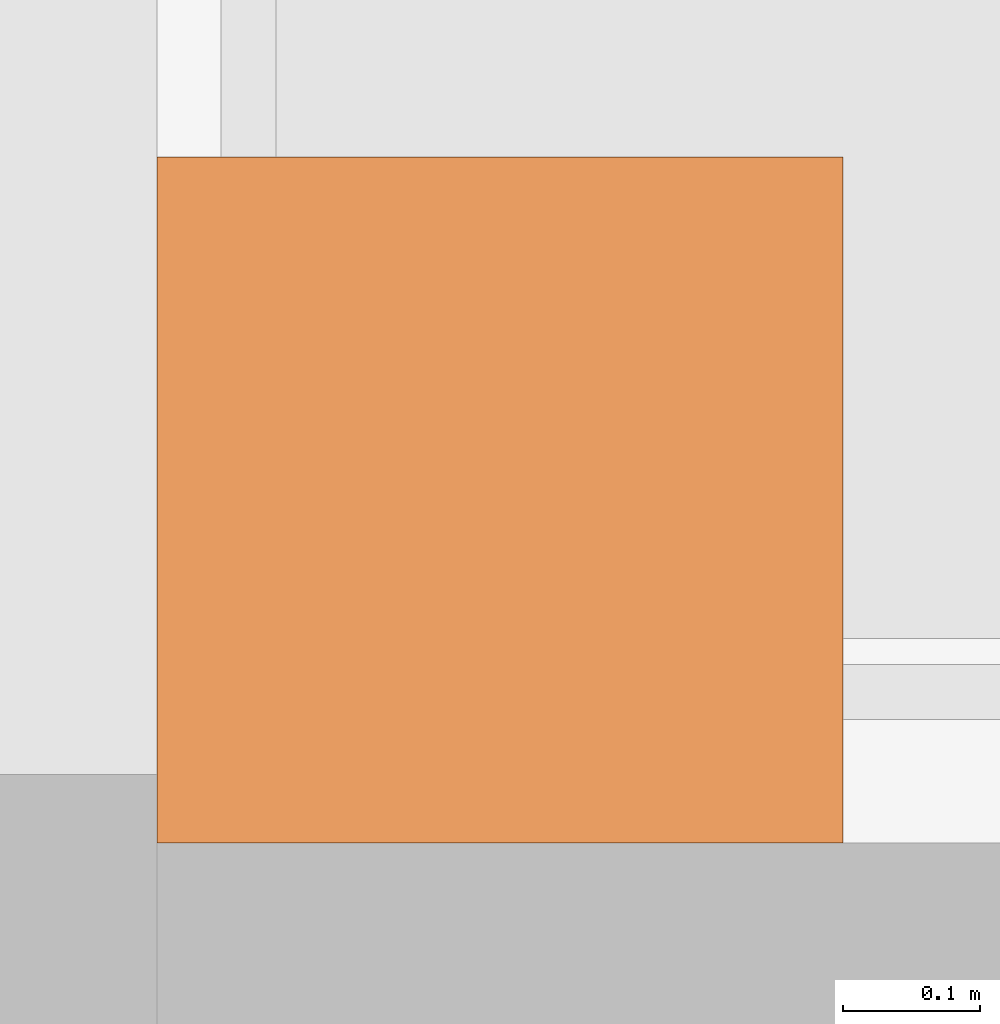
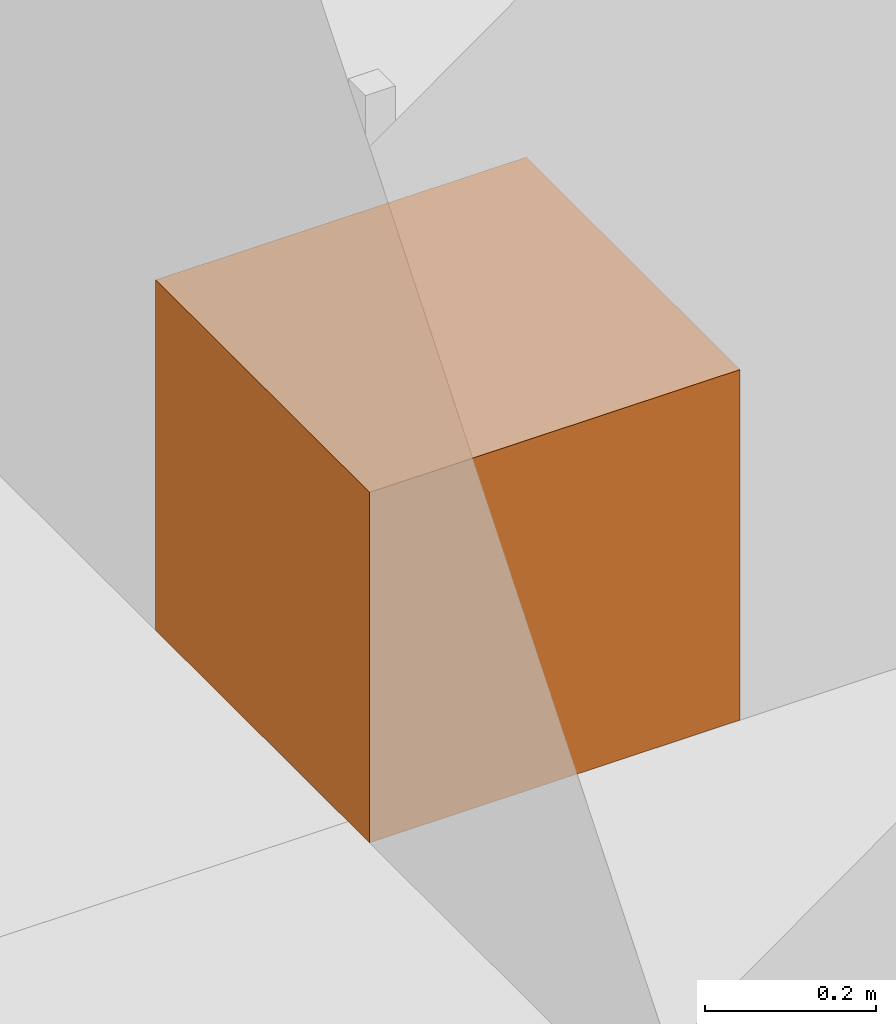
# One storey, part 46 of 46: 1 proxy.
"""IFC2X3 building model written with IfcOpenShell, lengths in millimetres."""

import ifcopenshell
import ifcopenshell.guid

model = None  # the IFC model being written
_history = None  # IfcOwnerHistory: only IFC2X3 demands one
_inside = {}  # id of a spatial element -> (the spatial element, [elements in it])
_under = {}  # id of a project, library or spatial element -> (it, [spatial elements below it])
_declared = {}  # id of a project -> (the project, [libraries it declares])
_typed = {}  # id of a type object -> (the type object, [elements of that type])
_made_of = {}  # id of a material, layer set ... -> (it, [elements and type objects made of it])


def new_model(schema):
    """Start an empty IFC model of exactly this schema.

    Asked for "IFC4X3", IfcOpenShell would pick the latest addendum, in which some entities
    have other attributes; the version numbers below select the first issue.
    IFC2X3 requires an IfcOwnerHistory on every rooted entity: one is made here for all.
    """
    global model, _history
    if schema == "IFC4X3":
        model = ifcopenshell.file(schema_version=(4, 3, 0, 0))
    else:
        model = ifcopenshell.file(schema=schema)
    _inside.clear()
    _under.clear()
    _declared.clear()
    _typed.clear()
    _made_of.clear()
    _history = None
    if model.schema == "IFC2X3":
        org = make("IfcOrganization", Name="unknown")
        user = make(
            "IfcPersonAndOrganization",
            ThePerson=make("IfcPerson", FamilyName="unknown"),
            TheOrganization=org,
        )
        app = make(
            "IfcApplication",
            ApplicationDeveloper=org,
            Version="unknown",
            ApplicationFullName="unknown",
            ApplicationIdentifier="unknown",
        )
        _history = make(
            "IfcOwnerHistory",
            OwningUser=user,
            OwningApplication=app,
            ChangeAction="ADDED",
            CreationDate=0,
        )
    return model


def make(cls, **values):
    """One entity of the class cls with the attributes given. An attribute that is None is left unset."""
    return model.create_entity(
        cls, **{name: value for name, value in values.items() if value is not None}
    )


def entity(cls, *values):
    """Any entity or typed value of the class cls, its attributes in the order of the schema. None: left unset."""
    e = model.create_entity(cls)
    for i, value in enumerate(values):
        if value is not None:
            e[i] = value
    return e


def rooted(cls, **values):
    """An entity with a GlobalId (a new one), such as an element, a storey or a relation."""
    return make(cls, GlobalId=ifcopenshell.guid.new(), OwnerHistory=_history, **values)


def si_unit(unit_type, name, prefix=None):
    """IfcSIUnit, for example si_unit("LENGTHUNIT", "METRE", prefix="MILLI")."""
    return make("IfcSIUnit", UnitType=unit_type, Prefix=prefix, Name=name)


def converted_unit(unit_type, name, factor, base, dimensions=None, offset=None):
    """IfcConversionBasedUnit, such as the inch: factor (a typed value) times the base unit."""
    return make(
        "IfcConversionBasedUnit"
        if offset is None
        else "IfcConversionBasedUnitWithOffset",
        ConversionOffset=offset,
        Dimensions=None
        if dimensions is None
        else entity("IfcDimensionalExponents", *dimensions),
        UnitType=unit_type,
        Name=name,
        ConversionFactor=make(
            "IfcMeasureWithUnit", ValueComponent=factor, UnitComponent=base
        ),
    )


def derived_unit(unit_type, elements):
    """IfcDerivedUnit: a product of units, each with its exponent."""
    return make(
        "IfcDerivedUnit",
        Elements=[
            make("IfcDerivedUnitElement", Unit=unit, Exponent=power)
            for unit, power in elements
        ],
        UnitType=unit_type,
    )


def assignment(units):
    """IfcUnitAssignment: the units of a project."""
    return None if units is None else make("IfcUnitAssignment", Units=units)


def point(xyz):
    """IfcCartesianPoint."""
    return None if xyz is None else make("IfcCartesianPoint", Coordinates=xyz)


def direction(xyz):
    """IfcDirection."""
    return None if xyz is None else make("IfcDirection", DirectionRatios=xyz)


def frame(location, z_axis=None, x_axis=None):
    """IfcAxis2Placement3D, a coordinate frame: its origin and axes. An axis left out is left unset."""
    return make(
        "IfcAxis2Placement3D",
        Location=point(location),
        Axis=direction(z_axis),
        RefDirection=direction(x_axis),
    )


def frame_2d(location, x_axis=None):
    """IfcAxis2Placement2D, a coordinate frame in the plane: its origin and x axis."""
    return make(
        "IfcAxis2Placement2D", Location=point(location), RefDirection=direction(x_axis)
    )


def origin():
    """The frame at (0, 0, 0) with its axes left unset."""
    return frame((0.0, 0.0, 0.0))


def origin_2d_with_axis():
    """The frame at (0, 0) in the plane with the x axis (1, 0) written out."""
    return frame_2d((0.0, 0.0), x_axis=(1.0, 0.0))


def place(relative_to, where):
    """IfcLocalPlacement: puts the frame where relative to a parent placement (None: the world)."""
    return make(
        "IfcLocalPlacement", PlacementRelTo=relative_to, RelativePlacement=where
    )


def context(
    kind, dimensions, precision=None, world=None, true_north=None, identifier=None
):
    """IfcGeometricRepresentationContext, for example the 3D "Model" context."""
    return make(
        "IfcGeometricRepresentationContext",
        ContextIdentifier=identifier,
        ContextType=kind,
        CoordinateSpaceDimension=dimensions,
        Precision=precision,
        WorldCoordinateSystem=world,
        TrueNorth=true_north,
    )


def subcontext(parent, identifier, kind, view, scale=None):
    """IfcGeometricRepresentationSubContext, for example "Body" below "Model"."""
    return make(
        "IfcGeometricRepresentationSubContext",
        ContextIdentifier=identifier,
        ContextType=kind,
        ParentContext=parent,
        TargetScale=scale,
        TargetView=view,
    )


def project(units=None, contexts=None):
    """IfcProject with its units and contexts."""
    return rooted(
        "IfcProject",
        Name="project",
        RepresentationContexts=contexts,
        UnitsInContext=assignment(units),
    )


def spatial(cls, under=None, at=None, **own):
    """A site, building, storey or space (cls), placed at a placement, below another one or the project."""
    s = rooted(cls, ObjectPlacement=at, **own)
    if under is not None:
        _under.setdefault(under.id(), (under, []))[1].append(s)
    return s


def profile(cls, at=None, kind="AREA", **sizes):
    """A parametric profile (cls). Its sizes go by their IFC names, for example OverallWidth=200.0."""
    return make(cls, ProfileType=kind, Position=at, **sizes)


def rectangle(**sizes):
    """IfcRectangleProfileDef."""
    return profile("IfcRectangleProfileDef", **sizes)


def extrude(swept, where, along, depth):
    """IfcExtrudedAreaSolid: the profile swept, set in the frame where, extruded along a direction by depth."""
    return make(
        "IfcExtrudedAreaSolid",
        SweptArea=swept,
        Position=where,
        ExtrudedDirection=direction(along),
        Depth=depth,
    )


def shape(context_of_items, identifier, shape_type, items):
    """IfcShapeRepresentation: the items that make up one representation, for example the "Body"."""
    return make(
        "IfcShapeRepresentation",
        ContextOfItems=context_of_items,
        RepresentationIdentifier=identifier,
        RepresentationType=shape_type,
        Items=items,
    )


def source(mapping_origin, context_of_items, identifier, shape_type, items):
    """IfcRepresentationMap: a shape defined once, which mapped items show again and again."""
    return make(
        "IfcRepresentationMap",
        MappingOrigin=mapping_origin,
        MappedRepresentation=shape(context_of_items, identifier, shape_type, items),
    )


def transform(
    local_origin,
    x_axis=None,
    y_axis=None,
    z_axis=None,
    scale=None,
    scale2=None,
    scale3=None,
    uniform=True,
):
    """IfcCartesianTransformationOperator3D, or its non-uniform kind. x_axis, y_axis, z_axis: its Axis1, 2, 3."""
    if uniform:
        return make(
            "IfcCartesianTransformationOperator3D",
            Axis1=direction(x_axis),
            Axis2=direction(y_axis),
            LocalOrigin=point(local_origin),
            Scale=scale,
            Axis3=direction(z_axis),
        )
    return make(
        "IfcCartesianTransformationOperator3DnonUniform",
        Axis1=direction(x_axis),
        Axis2=direction(y_axis),
        LocalOrigin=point(local_origin),
        Scale=scale,
        Axis3=direction(z_axis),
        Scale2=scale2,
        Scale3=scale3,
    )


def mapped(mapping_source, mapping_target):
    """IfcMappedItem: shows the shape of a source again, moved by a transform."""
    return make(
        "IfcMappedItem", MappingSource=mapping_source, MappingTarget=mapping_target
    )


def made_of(thing, what):
    """Note that an element or type object is made of a material, layer set ...; save() writes the relation."""
    if what is not None:
        _made_of.setdefault(what.id(), (what, []))[1].append(thing)
    return thing


def type_object(cls, material=None, **own):
    """A type object (cls), such as IfcWallType, which elements share."""
    return made_of(rooted(cls, **own), material)


def type_shapes(of_type, sources):
    """Give a type object the sources (RepresentationMaps) that its elements show as mapped items."""
    of_type.RepresentationMaps = sources


def element(
    cls,
    number,
    at=None,
    inside=None,
    cuts=None,
    type_object=None,
    material=None,
    context=None,
    identifier="Body",
    shape_type=None,
    held_by="IfcProductDefinitionShape",
    body=None,
    shapes=None,
    **own,
):
    """One element of the class cls, such as IfcWall. Its Tag is "e" and its number.

    at: its placement. inside: the storey or other place that contains it. cuts: it is an
    opening in that element (IfcRelVoidsElement). A single representation is given by context,
    identifier, shape_type and body (its items); several are given by shapes. held_by: the class
    of the entity that holds the representations. save() writes the other relations.
    """
    e = rooted(cls, Tag="e%d" % number, ObjectPlacement=at, **own)
    if body is not None:
        shapes = [shape(context, identifier, shape_type, body)]
    if shapes is not None:
        e.Representation = make(held_by, Representations=shapes)
    if inside is not None:
        _inside.setdefault(inside.id(), (inside, []))[1].append(e)
    if cuts is not None:
        rooted(
            "IfcRelVoidsElement", RelatingBuildingElement=cuts, RelatedOpeningElement=e
        )
    if type_object is not None:
        _typed.setdefault(type_object.id(), (type_object, []))[1].append(e)
    return made_of(e, material)


def aggregate(whole, parts):
    """IfcRelAggregates: a whole, such as a stair, and the parts it consists of."""
    return rooted("IfcRelAggregates", RelatingObject=whole, RelatedObjects=parts)


def save(model, path):
    """Write the relations noted so far, then the file.

    IfcRelAggregates (storeys below a building ...), IfcRelContainedInSpatialStructure (elements
    in a storey), IfcRelDefinesByType, IfcRelAssociatesMaterial and IfcRelDeclares: one each for
    every whole, place, type object, material and project.
    """
    for whole, parts in _under.values():
        aggregate(whole, parts)
    for where, things in _inside.values():
        rooted(
            "IfcRelContainedInSpatialStructure",
            RelatedElements=things,
            RelatingStructure=where,
        )
    for kind, things in _typed.values():
        rooted("IfcRelDefinesByType", RelatedObjects=things, RelatingType=kind)
    for what, things in _made_of.values():
        rooted("IfcRelAssociatesMaterial", RelatedObjects=things, RelatingMaterial=what)
    for by, libraries in _declared.values():
        rooted("IfcRelDeclares", RelatingContext=by, RelatedDefinitions=libraries)
    model.write(path)


model = new_model("IFC2X3")

# Units and contexts
model_context = context("Model", 3, precision=0.01, world=origin(), true_north=direction((6.12303176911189e-17, 1.0)))
body_context = subcontext(model_context, "Body", "Model", "MODEL_VIEW")
ifc_project = project(units=[si_unit("LENGTHUNIT", "METRE", prefix="MILLI"), si_unit("AREAUNIT", "SQUARE_METRE"), si_unit("VOLUMEUNIT", "CUBIC_METRE"), converted_unit("PLANEANGLEUNIT", "DEGREE", entity("IfcRatioMeasure", 0.0174532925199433), si_unit("PLANEANGLEUNIT", "RADIAN"), dimensions=[0, 0, 0, 0, 0, 0, 0]), si_unit("MASSUNIT", "GRAM", prefix="KILO"), derived_unit("MASSDENSITYUNIT", [(si_unit("MASSUNIT", "GRAM", prefix="KILO"), 1), (si_unit("LENGTHUNIT", "METRE"), -3)]), si_unit("TIMEUNIT", "SECOND"), si_unit("FREQUENCYUNIT", "HERTZ"), si_unit("THERMODYNAMICTEMPERATUREUNIT", "DEGREE_CELSIUS"), derived_unit("THERMALTRANSMITTANCEUNIT", [(si_unit("MASSUNIT", "GRAM", prefix="KILO"), 1), (si_unit("THERMODYNAMICTEMPERATUREUNIT", "KELVIN"), -1), (si_unit("TIMEUNIT", "SECOND"), -3)]), derived_unit("VOLUMETRICFLOWRATEUNIT", [(si_unit("LENGTHUNIT", "METRE"), 3), (si_unit("TIMEUNIT", "SECOND"), -1)]), si_unit("ELECTRICCURRENTUNIT", "AMPERE"), si_unit("ELECTRICVOLTAGEUNIT", "VOLT"), si_unit("POWERUNIT", "WATT"), si_unit("FORCEUNIT", "NEWTON", prefix="KILO"), si_unit("ILLUMINANCEUNIT", "LUX"), si_unit("LUMINOUSFLUXUNIT", "LUMEN"), si_unit("LUMINOUSINTENSITYUNIT", "CANDELA"), derived_unit("USERDEFINED", [(si_unit("MASSUNIT", "GRAM", prefix="KILO"), -1), (si_unit("LENGTHUNIT", "METRE"), -2), (si_unit("TIMEUNIT", "SECOND"), 3), (si_unit("LUMINOUSFLUXUNIT", "LUMEN"), 1)]), derived_unit("LINEARVELOCITYUNIT", [(si_unit("LENGTHUNIT", "METRE"), 1), (si_unit("TIMEUNIT", "SECOND"), -1)]), si_unit("PRESSUREUNIT", "PASCAL"), derived_unit("USERDEFINED", [(si_unit("LENGTHUNIT", "METRE"), -2), (si_unit("MASSUNIT", "GRAM", prefix="KILO"), 1), (si_unit("TIMEUNIT", "SECOND"), -2)]), derived_unit("LINEARFORCEUNIT", [(si_unit("MASSUNIT", "GRAM", prefix="KILO"), 1), (si_unit("LENGTHUNIT", "METRE"), 1), (si_unit("TIMEUNIT", "SECOND"), -2), (si_unit("LENGTHUNIT", "METRE"), -1)]), derived_unit("PLANARFORCEUNIT", [(si_unit("MASSUNIT", "GRAM", prefix="KILO"), 1), (si_unit("LENGTHUNIT", "METRE"), 1), (si_unit("TIMEUNIT", "SECOND"), -2), (si_unit("LENGTHUNIT", "METRE"), -2)])], contexts=[model_context])

# Site, building, storey, space
site_placement = place(None, origin())
site = spatial("IfcSite", under=ifc_project, at=site_placement, Name="Default", CompositionType="ELEMENT")
building_placement = place(site_placement, origin())
building = spatial("IfcBuilding", under=site, at=building_placement, Name="SMA ARH", CompositionType="ELEMENT")
storey_placement = place(building_placement, origin())
storey = spatial("IfcBuildingStorey", under=building, at=storey_placement, Name="1 Korrus", CompositionType="ELEMENT", Elevation=0.0)
space_placement = place(storey_placement, origin())
space = spatial("IfcSpace", under=storey, at=space_placement, Name="1-15", CompositionType="ELEMENT", InteriorOrExteriorSpace="INTERNAL")

# Proxy
building_element_proxy_type = type_object("IfcBuildingElementProxyType", Name="Reeper:Reeper", PredefinedType="NOTDEFINED")
shared_shape = source(origin(), body_context, "Body", "SweptSolid", [
    extrude(rectangle(XDim=500.0, YDim=500.0, at=origin_2d_with_axis()), frame((-250.0, -250.0, 0.0), z_axis=(0.0, 0.0, 1.0), x_axis=(0.0, 1.0, 0.0)), (0.0, 0.0, 1.0), 500.0),
])
type_shapes(building_element_proxy_type, [shared_shape])
proxy_placement = place(space_placement, frame((500.0, 500.0, 0.0)))
element("IfcBuildingElementProxy", 1, at=proxy_placement, inside=space, type_object=building_element_proxy_type, Name="Reeper:Reeper", ObjectType="Reeper:Reeper", context=body_context, shape_type="MappedRepresentation", body=[
    mapped(shared_shape, transform((0.0, 0.0, 0.0), scale=1.0)),
])

save(model, "model.ifc")
